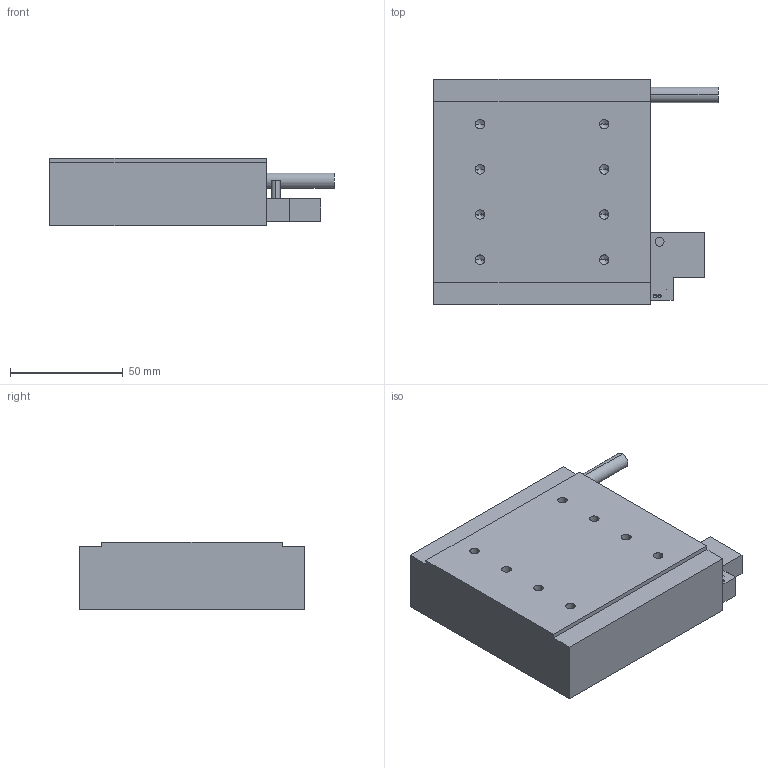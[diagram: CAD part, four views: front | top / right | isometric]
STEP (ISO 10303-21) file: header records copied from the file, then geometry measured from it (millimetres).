
FILE_DESCRIPTION (( 'STEP AP214' ), '1' );
FILE_NAME ('FLT-100-96（带霍尔）.STEP', '2022-04-13T09:25:59', ( 'Microsoft' ), ( 'Microsoft' ), 'SwSTEP 2.0', 'SolidWorks 2016', '' );
FILE_SCHEMA (( 'AUTOMOTIVE_DESIGN' ));
Length unit declared in the file: millimetre
Products named in the file (3): FLT-100-96; FLT-100-96（带霍尔）; FLT齊嫌耀倰芞
Assembly tree (2 placements, depth 2):
  FLT-100-96（带霍尔）
    FLT齊嫌耀倰芞
    FLT-100-96
Bounding box: 126 x 100 x 30 mm (x, y, z)
Volume: 290199.7 mm3; surface area: 34798.7 mm2
Topology: 2 solids, 2 shells, 82 faces, 198 edges, 112 vertices
Faces by surface type: cylinder 36, cone 24, plane 22
Entity records: 2552 total; most frequent: DIRECTION 420, CARTESIAN_POINT 373, ORIENTED_EDGE 348, EDGE_CURVE 174, AXIS2_PLACEMENT_3D 159, VERTEX_POINT 112, LINE 102, EDGE_LOOP 102
